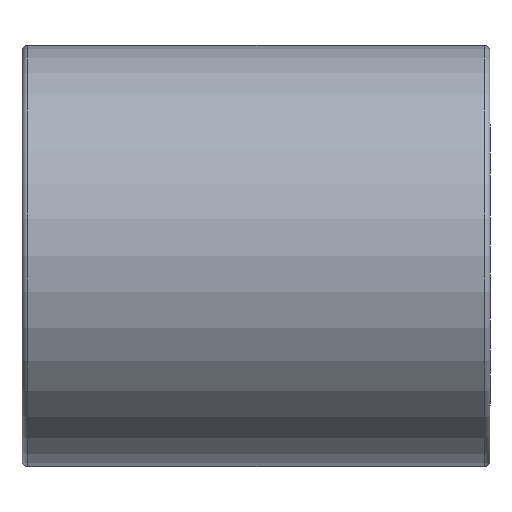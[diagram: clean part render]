
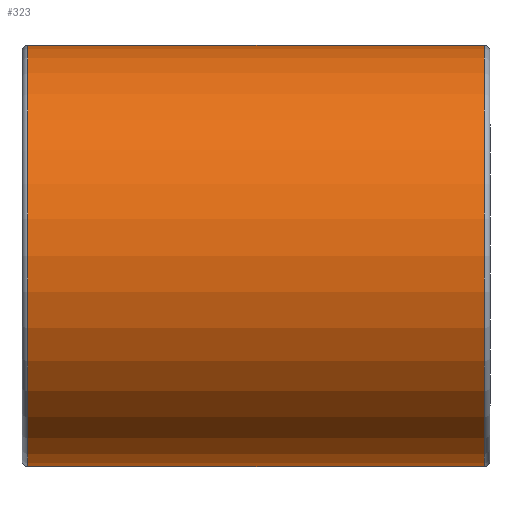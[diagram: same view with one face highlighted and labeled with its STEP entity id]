
A CAD part, top view. The second image highlights one B-rep face of the part: STEP entity #323.
In plain terms, the highlighted cylindrical face has radius 18 mm (diameter 36 mm), a partial arc.
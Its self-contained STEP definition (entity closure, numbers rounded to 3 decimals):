
#203=CARTESIAN_POINT('Vertex',(39.5,-18.,0.)) ;
#210=CARTESIAN_POINT('Vertex',(39.5,18.,0.)) ;
#230=CARTESIAN_POINT('Axis2P3D Location',(39.5,0.,0.)) ;
#251=CARTESIAN_POINT('Vertex',(0.5,18.,0.)) ;
#258=CARTESIAN_POINT('Vertex',(0.5,-18.,0.)) ;
#261=CARTESIAN_POINT('Axis2P3D Location',(0.5,0.,0.)) ;
#295=CARTESIAN_POINT('Line Origine',(20.,18.,0.)) ;
#300=CARTESIAN_POINT('Line Origine',(20.,-18.,0.)) ;
#312=CARTESIAN_POINT('Axis2P3D Location',(20.,0.,0.)) ;
#231=DIRECTION('Axis2P3D Direction',(1.,-0.,0.)) ;
#262=DIRECTION('Axis2P3D Direction',(1.,-0.,0.)) ;
#296=DIRECTION('Vector Direction',(1.,0.,0.)) ;
#301=DIRECTION('Vector Direction',(1.,0.,0.)) ;
#313=DIRECTION('Axis2P3D Direction',(1.,0.,0.)) ;
#314=DIRECTION('Axis2P3D XDirection',(0.,1.,0.)) ;
#232=AXIS2_PLACEMENT_3D('Circle Axis2P3D',#230,#231,$) ;
#263=AXIS2_PLACEMENT_3D('Circle Axis2P3D',#261,#262,$) ;
#315=AXIS2_PLACEMENT_3D('Cylinder Axis2P3D',#312,#313,#314) ;
#318=ORIENTED_EDGE('',*,*,#304,.T.) ;
#319=ORIENTED_EDGE('',*,*,#234,.F.) ;
#320=ORIENTED_EDGE('',*,*,#299,.F.) ;
#321=ORIENTED_EDGE('',*,*,#265,.T.) ;
#297=VECTOR('Line Direction',#296,1.) ;
#302=VECTOR('Line Direction',#301,1.) ;
#323=ADVANCED_FACE('STM25',(#322),#316,.T.) ;
#233=CIRCLE('generated circle',#232,18.) ;
#264=CIRCLE('generated circle',#263,18.) ;
#316=CYLINDRICAL_SURFACE('generated cylinder',#315,18.) ;
#234=EDGE_CURVE('',#211,#204,#233,.T.) ;
#265=EDGE_CURVE('',#252,#259,#264,.T.) ;
#299=EDGE_CURVE('',#252,#211,#298,.T.) ;
#304=EDGE_CURVE('',#259,#204,#303,.T.) ;
#317=EDGE_LOOP('',(#318,#319,#320,#321)) ;
#322=FACE_OUTER_BOUND('',#317,.T.) ;
#298=LINE('Line',#295,#297) ;
#303=LINE('Line',#300,#302) ;
#204=VERTEX_POINT('',#203) ;
#211=VERTEX_POINT('',#210) ;
#252=VERTEX_POINT('',#251) ;
#259=VERTEX_POINT('',#258) ;
